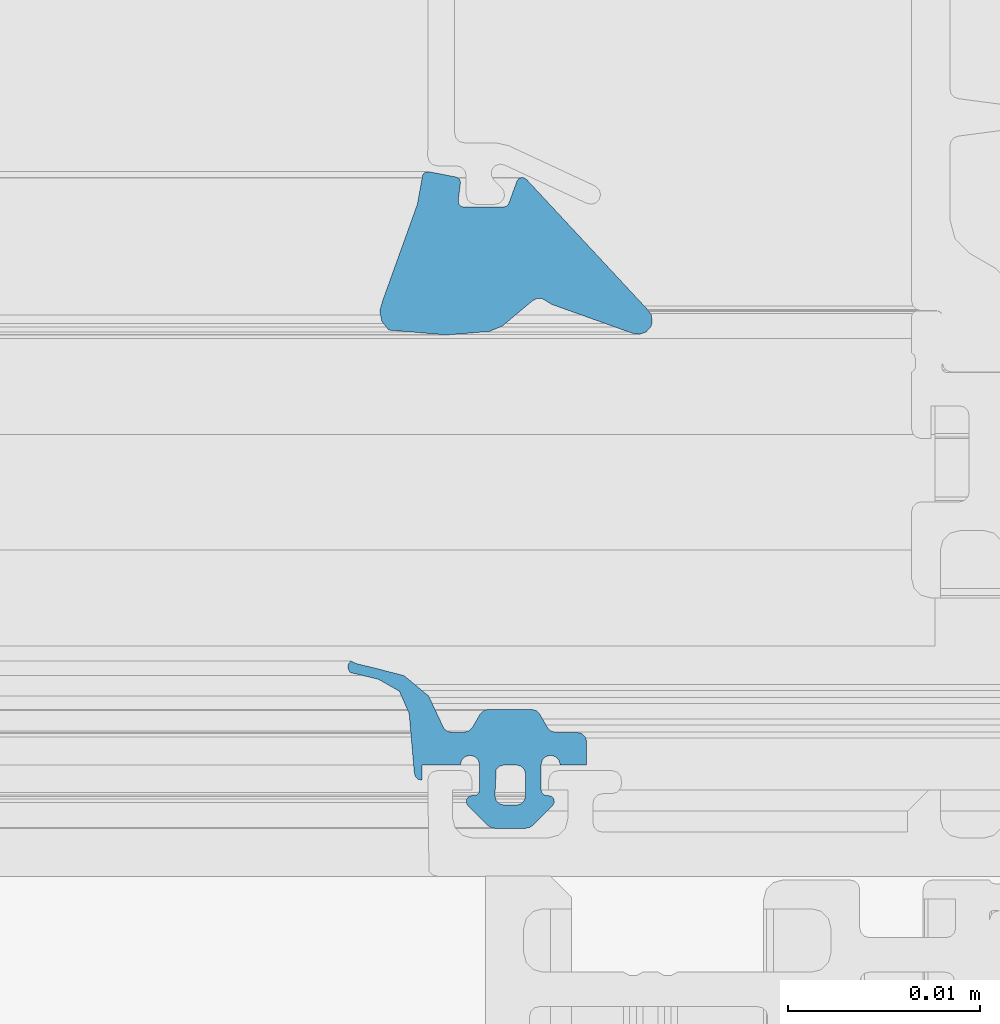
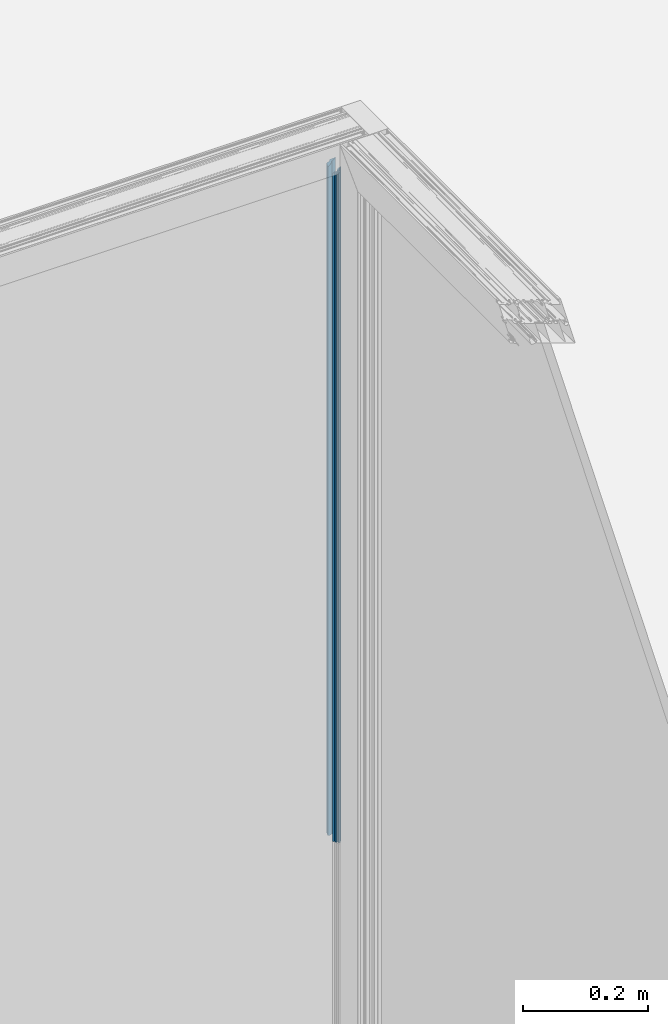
# One storey, part 29 of 69: 1 building element part, 2 elements without a shape of their own.
"""IFC2X3 building model written with IfcOpenShell, lengths in millimetres."""

from ifc_helpers import new_model, entity, si_unit, converted_unit, derived_unit, money_unit, direction, frame, origin_with_axes, place, context, subcontext, project, spatial, faceted_brep, material, type_object, element, aggregate, save


model = new_model("IFC2X3")

# Units and contexts
model_context = context("Model", 3, precision=0.01, world=origin_with_axes(), true_north=direction((0.0, 1.0)))
body_context = subcontext(model_context, "Body", "Model", "MODEL_VIEW")
ifc_project = project(units=[si_unit("LENGTHUNIT", "METRE", prefix="MILLI"), si_unit("AREAUNIT", "SQUARE_METRE"), si_unit("VOLUMEUNIT", "CUBIC_METRE"), converted_unit("PLANEANGLEUNIT", "DEGREE", entity("IfcPlaneAngleMeasure", 0.0174532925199), si_unit("PLANEANGLEUNIT", "RADIAN"), dimensions=[0, 0, 0, 0, 0, 0, 0]), si_unit("SOLIDANGLEUNIT", "STERADIAN"), money_unit("EUR"), converted_unit("TIMEUNIT", "Year", entity("IfcTimeMeasure", 31556926.0), si_unit("TIMEUNIT", "SECOND"), dimensions=[0, 0, 1, 0, 0, 0, 0]), si_unit("MASSUNIT", "GRAM", prefix="KILO"), si_unit("THERMODYNAMICTEMPERATUREUNIT", "DEGREE_CELSIUS"), si_unit("LUMINOUSINTENSITYUNIT", "LUMEN"), si_unit("ENERGYUNIT", "JOULE", prefix="MEGA"), derived_unit("THERMALCONDUCTANCEUNIT", [(si_unit("POWERUNIT", "WATT"), 1), (si_unit("LENGTHUNIT", "METRE"), -1), (si_unit("THERMODYNAMICTEMPERATUREUNIT", "KELVIN"), -1)]), derived_unit("SPECIFICHEATCAPACITYUNIT", [(si_unit("ENERGYUNIT", "JOULE"), 1), (si_unit("MASSUNIT", "GRAM", prefix="KILO"), -1), (si_unit("THERMODYNAMICTEMPERATUREUNIT", "KELVIN"), -1)]), derived_unit("MASSDENSITYUNIT", [(si_unit("MASSUNIT", "GRAM", prefix="KILO"), 1), (si_unit("VOLUMEUNIT", "CUBIC_METRE"), -1)])], contexts=[model_context])

# Site, building, storey
site_placement = place(None, origin_with_axes())
site = spatial("IfcSite", under=ifc_project, at=site_placement, Name="Puškini 31, Narva", CompositionType="ELEMENT")
building_placement = place(site_placement, origin_with_axes())
building = spatial("IfcBuilding", under=site, at=building_placement, Name="Narva Riigigümnaasium", CompositionType="ELEMENT")
storey_placement = place(building_placement, origin_with_axes())
storey = spatial("IfcBuildingStorey", under=building, at=storey_placement, Name="1.korrus 0.00", CompositionType="ELEMENT", Elevation=0.0)

# Curtain wall, member, building element part
curtain_wall_type = type_object("IfcCurtainWallType", Name="Curtain Wall Type", PredefinedType="NOTDEFINED")
curtain_wall_placement = place(storey_placement, frame((18229.9603698, 152620.000001, -0.397158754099), z_axis=(0.0, 0.0, 1.0), x_axis=(1.0, 0.0, 0.0)))
curtain_wall = element("IfcCurtainWall", 1, at=curtain_wall_placement, inside=storey, type_object=curtain_wall_type, Name="G-KLF-01-1")
member_type = type_object("IfcMemberType", Name="61 x 45", PredefinedType="MULLION")
member_placement = place(curtain_wall_placement, frame((4064.40686752, 0.0, 2400.00003439), z_axis=(0.0, 0.0, 1.0), x_axis=(1.0, 0.0, 0.0)))
member = element("IfcMember", 2, at=member_placement, type_object=member_type, Name="G-SKLF-14-raam", ObjectType="MULLION")
aggregate(curtain_wall, [member])
ifc_material = material(Name="Membraan - Veekindel")
building_element_part_placement = place(member_placement, origin_with_axes())
building_element_part = element("IfcBuildingElementPart", 3, at=building_element_part_placement, material=ifc_material, Name="Membraan - Veekindel", context=body_context, shape_type="Brep", body=[
    faceted_brep([(-61.0413385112, -34.3890442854, 0.0), (-59.5800222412, -34.73794757, 0.0), (-59.5800222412, -34.73794757, 1300.81706307), (-61.0413385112, -34.3890442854, 1299.3557468), (-61.1536677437, -34.1934467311, 0.0), (-61.1423164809, -33.9681748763, 0.0), (-61.0108941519, -33.784859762, 0.0), (-60.7381535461, -33.9217644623, 0.0), (-59.8409257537, -34.1343131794, 0.0), (-58.2346494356, -34.5489145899, 0.0), (-56.9567944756, -35.6067920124, 0.0), (-56.2495873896, -37.1074172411, 0.0), (-56.1542959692, -37.3107917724, 0.0), (-55.9795989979, -37.4519392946, 0.0), (-55.7607444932, -37.5023809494, 0.0), (-55.1093263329, -37.5023809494, 0.0), (-54.8593263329, -37.4353936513, 0.0), (-54.676313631, -37.2523809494, 0.0), (-54.2721684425, -36.5523809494, 0.0), (-54.0891557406, -36.3693682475, 0.0), (-53.8391557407, -36.3023809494, 0.0), (-51.602145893, -36.3023809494, 0.0), (-51.352145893, -36.3693682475, 0.0), (-51.1691331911, -36.5523809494, 0.0), (-50.7649880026, -37.2523809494, 0.0), (-50.5819753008, -37.4353936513, 0.0), (-50.3319753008, -37.5023809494, 0.0), (-49.2206527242, -37.5023809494, 0.0), (-48.9706527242, -37.5693682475, 0.0), (-48.7876400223, -37.7523809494, 0.0), (-48.7206527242, -38.0023809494, 0.0), (-48.7206527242, -39.1999494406, 0.0), (-50.10004, -39.1999494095, 0.0), (-50.1670287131, -38.9499497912, 0.0), (-50.3500424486, -38.7669381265, 0.0), (-50.6000428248, -38.699952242, 0.0), (-50.8500424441, -38.7669409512, 0.0), (-51.0330541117, -38.9499546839, 0.0), (-51.10004, -39.1999550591, 0.0), (-51.10004, -40.4999366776, 0.0), (-51.0598476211, -40.6499366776, 0.0), (-50.95004, -40.7597442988, 0.0), (-50.80004, -40.7999366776, 0.0), (-50.7000457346, -40.7999366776, 0.0), (-50.5334025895, -40.8504763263, 0.0), (-50.4229059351, -40.9850671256, 0.0), (-50.4057850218, -41.1583618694, 0.0), (-50.4878083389, -41.3119729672, 0.0), (-51.5281601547, -42.3533311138, 0.0), (-51.6904310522, -42.4618421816, 0.0), (-51.8818844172, -42.4999486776, 0.0), (-53.517932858, -42.4999486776, 0.0), (-53.7093558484, -42.4618547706, 0.0), (-53.8716106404, -42.3533776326, 0.0), (-54.9122350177, -41.3120206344, 0.0), (-54.9942836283, -41.1584047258, 0.0), (-54.9771753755, -40.9850924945, 0.0), (-54.866675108, -40.850483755, 0.0), (-54.7000173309, -40.7999366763, 0.0), (-54.6000210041, -40.7999366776, 0.0), (-54.4500210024, -40.7597443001, 0.0), (-54.3402133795, -40.6499366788, 0.0), (-54.300021, -40.4999366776, 0.0), (-54.300021, -39.1999606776, 0.0), (-54.3670082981, -38.9499606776, 0.0), (-54.5500210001, -38.7669479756, 0.0), (-54.8000210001, -38.6999606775, 0.0), (-55.0500210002, -38.7669479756, 0.0), (-55.2330337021, -38.9499606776, 0.0), (-55.3000210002, -39.1999606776, 0.0), (-57.3000022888, -39.1999494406, 0.0), (-57.3000022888, -39.9999846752, 0.0), (-57.5000161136, -39.9463912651, 0.0), (-57.6464370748, -39.7999717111, 0.0), (-57.7000324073, -39.5999584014, 0.0), (-57.9693613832, -36.5265882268, 0.0), (-58.4755028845, -35.3628499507, 0.0), (-53.5000340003, -40.7999553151, 0.0), (-53.4330491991, -41.0499459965, 0.0), (-53.2500433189, -41.2329518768, 0.0), (-53.0000526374, -41.299936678, 0.0), (-52.4000083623, -41.299936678, 0.0), (-52.150017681, -41.2329518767, 0.0), (-51.9670118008, -41.0499459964, 0.0), (-51.9000269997, -40.799955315, 0.0), (-51.9000269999, -39.6999268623, 0.0), (-51.9670129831, -39.4499317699, 0.0), (-52.1500220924, -39.2669226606, 0.0), (-52.4000171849, -39.1999366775, 0.0), (-53.0000438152, -39.1999366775, 0.0), (-53.2500389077, -39.2669226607, 0.0), (-53.433048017, -39.44993177, 0.0), (-58.4755028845, -35.3628499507, 1301.92158243), (-57.9693613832, -36.5265882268, 1302.42772393), (-57.7000324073, -39.5999584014, 1302.69705291), (-57.6464370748, -39.7999717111, 1302.75064824), (-57.5000161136, -39.9463912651, 1302.8970692), (-57.3000022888, -39.9999846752, 1303.09708303), (-57.3000022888, -39.1999494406, 1303.09708303), (-55.3000210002, -39.1999606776, 1305.09706431), (-55.2330337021, -38.9499606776, 1305.16405161), (-55.0500210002, -38.7669479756, 1305.34706431), (-54.8000210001, -38.6999606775, 1305.59706431), (-54.5500210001, -38.7669479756, 1305.84706431), (-54.3670082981, -38.9499606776, 1306.03007702), (-54.300021, -39.1999606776, 1306.09706431), (-54.300021, -40.4999366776, 1306.09706431), (-54.3402133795, -40.6499366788, 1306.05687193), (-54.4500210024, -40.7597443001, 1305.94706431), (-54.6000210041, -40.7999366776, 1305.79706431), (-54.7000173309, -40.7999366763, 1305.69706798), (-54.866675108, -40.850483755, 1305.53041021), (-54.9771753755, -40.9850924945, 1305.41990994), (-54.9942836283, -41.1584047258, 1305.40280169), (-54.9122350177, -41.3120206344, 1305.4848503), (-53.8716106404, -42.3533776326, 1306.52547467), (-53.7093558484, -42.4618547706, 1306.68772947), (-53.517932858, -42.4999486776, 1306.87915246), (-51.8818844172, -42.4999486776, 1308.5152009), (-51.6904310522, -42.4618421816, 1308.70665426), (-51.5281601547, -42.3533311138, 1308.86892516), (-50.4878083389, -41.3119729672, 1309.90927698), (-50.4057850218, -41.1583618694, 1309.99130029), (-50.4229059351, -40.9850671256, 1309.97417938), (-50.5334025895, -40.8504763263, 1309.86368272), (-50.7000457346, -40.7999366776, 1309.69703958), (-50.80004, -40.7999366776, 1309.59704531), (-50.95004, -40.7597442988, 1309.44704531), (-51.0598476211, -40.6499366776, 1309.33723769), (-51.10004, -40.4999366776, 1309.29704531), (-51.10004, -39.1999550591, 1309.29704531), (-51.0330541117, -38.9499546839, 1309.3640312), (-50.8500424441, -38.7669409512, 1309.54704287), (-50.6000428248, -38.699952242, 1309.79704249), (-50.3500424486, -38.7669381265, 1310.04704287), (-50.1670287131, -38.9499497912, 1310.2300566), (-50.10004, -39.1999494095, 1310.29704531), (-48.7206527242, -39.1999494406, 1311.67643259), (-48.7206527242, -38.0023809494, 1311.67643259), (-48.7876400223, -37.7523809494, 1311.60944529), (-48.9706527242, -37.5693682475, 1311.42643259), (-49.2206527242, -37.5023809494, 1311.17643259), (-50.3319753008, -37.5023809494, 1310.06511001), (-50.5819753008, -37.4353936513, 1309.81511001), (-50.7649880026, -37.2523809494, 1309.63209731), (-51.1691331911, -36.5523809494, 1309.22795212), (-51.352145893, -36.3693682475, 1309.04493942), (-51.602145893, -36.3023809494, 1308.79493942), (-53.8391557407, -36.3023809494, 1306.55792957), (-54.0891557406, -36.3693682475, 1306.30792957), (-54.2721684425, -36.5523809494, 1306.12491687), (-54.676313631, -37.2523809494, 1305.72077168), (-54.8593263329, -37.4353936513, 1305.53775898), (-55.1093263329, -37.5023809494, 1305.28775898), (-55.7607444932, -37.5023809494, 1304.63634082), (-55.9795989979, -37.4519392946, 1304.41748632), (-56.1542959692, -37.3107917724, 1304.24278935), (-56.2495873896, -37.1074172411, 1304.14749792), (-56.9567944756, -35.6067920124, 1303.44029084), (-58.2346494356, -34.5489145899, 1302.16243588), (-59.8409257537, -34.1343131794, 1300.55615956), (-60.7381535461, -33.9217644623, 1299.65893177), (-61.0108941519, -33.784859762, 1299.38619116), (-61.1423164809, -33.9681748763, 1299.25476883), (-61.1536677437, -34.1934467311, 1299.24341757), (-53.5000340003, -40.7999553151, 1306.89705131), (-53.433048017, -39.44993177, 1306.9640373), (-53.2500389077, -39.2669226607, 1307.14704641), (-53.0000438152, -39.1999366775, 1307.3970415), (-52.4000171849, -39.1999366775, 1307.99706813), (-52.1500220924, -39.2669226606, 1308.24706322), (-51.9670129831, -39.4499317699, 1308.43007233), (-51.9000269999, -39.6999268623, 1308.49705831), (-51.9000269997, -40.799955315, 1308.49705831), (-51.9670118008, -41.0499459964, 1308.43007351), (-52.150017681, -41.2329518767, 1308.24706763), (-52.4000083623, -41.299936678, 1307.99707695), (-53.0000526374, -41.299936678, 1307.39703268), (-53.2500433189, -41.2329518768, 1307.147042), (-53.4330491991, -41.0499459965, 1306.96403612)], [[[0, 1, 2, 3]], [[0, 4, 5, 6, 7, 8, 9, 10, 11, 12, 13, 14, 15, 16, 17, 18, 19, 20, 21, 22, 23, 24, 25, 26, 27, 28, 29, 30, 31, 32, 33, 34, 35, 36, 37, 38, 39, 40, 41, 42, 43, 44, 45, 46, 47, 48, 49, 50, 51, 52, 53, 54, 55, 56, 57, 58, 59, 60, 61, 62, 63, 64, 65, 66, 67, 68, 69, 70, 71, 72, 73, 74, 75, 76, 1], [77, 78, 79, 80, 81, 82, 83, 84, 85, 86, 87, 88, 89, 90, 91]], [[1, 76, 92, 2]], [[3, 2, 92, 93, 94, 95, 96, 97, 98, 99, 100, 101, 102, 103, 104, 105, 106, 107, 108, 109, 110, 111, 112, 113, 114, 115, 116, 117, 118, 119, 120, 121, 122, 123, 124, 125, 126, 127, 128, 129, 130, 131, 132, 133, 134, 135, 136, 137, 138, 139, 140, 141, 142, 143, 144, 145, 146, 147, 148, 149, 150, 151, 152, 153, 154, 155, 156, 157, 158, 159, 160, 161, 162, 163, 164], [165, 166, 167, 168, 169, 170, 171, 172, 173, 174, 175, 176, 177, 178, 179]], [[4, 0, 3, 164]], [[5, 4, 164, 163]], [[6, 5, 163, 162]], [[7, 6, 162, 161]], [[8, 7, 161, 160]], [[9, 8, 160, 159]], [[10, 9, 159, 158]], [[11, 10, 158, 157]], [[12, 11, 157, 156]], [[13, 12, 156, 155]], [[14, 13, 155, 154]], [[15, 14, 154, 153]], [[16, 15, 153, 152]], [[17, 16, 152, 151]], [[18, 17, 151, 150]], [[19, 18, 150, 149]], [[20, 19, 149, 148]], [[21, 20, 148, 147]], [[22, 21, 147, 146]], [[23, 22, 146, 145]], [[24, 23, 145, 144]], [[25, 24, 144, 143]], [[26, 25, 143, 142]], [[27, 26, 142, 141]], [[28, 27, 141, 140]], [[29, 28, 140, 139]], [[30, 29, 139, 138]], [[31, 30, 138, 137]], [[32, 31, 137, 136]], [[33, 32, 136, 135]], [[34, 33, 135, 134]], [[35, 34, 134, 133]], [[36, 35, 133, 132]], [[37, 36, 132, 131]], [[38, 37, 131, 130]], [[39, 38, 130, 129]], [[40, 39, 129, 128]], [[41, 40, 128, 127]], [[42, 41, 127, 126]], [[43, 42, 126, 125]], [[44, 43, 125, 124]], [[45, 44, 124, 123]], [[46, 45, 123, 122]], [[47, 46, 122, 121]], [[48, 47, 121, 120]], [[49, 48, 120, 119]], [[50, 49, 119, 118]], [[51, 50, 118, 117]], [[52, 51, 117, 116]], [[53, 52, 116, 115]], [[54, 53, 115, 114]], [[55, 54, 114, 113]], [[56, 55, 113, 112]], [[57, 56, 112, 111]], [[58, 57, 111, 110]], [[59, 58, 110, 109]], [[60, 59, 109, 108]], [[61, 60, 108, 107]], [[62, 61, 107, 106]], [[63, 62, 106, 105]], [[64, 63, 105, 104]], [[65, 64, 104, 103]], [[66, 65, 103, 102]], [[67, 66, 102, 101]], [[68, 67, 101, 100]], [[69, 68, 100, 99]], [[70, 69, 99, 98]], [[71, 70, 98, 97]], [[72, 71, 97, 96]], [[73, 72, 96, 95]], [[74, 73, 95, 94]], [[75, 74, 94, 93]], [[76, 75, 93, 92]], [[78, 77, 165, 179]], [[79, 78, 179, 178]], [[80, 79, 178, 177]], [[81, 80, 177, 176]], [[82, 81, 176, 175]], [[83, 82, 175, 174]], [[84, 83, 174, 173]], [[85, 84, 173, 172]], [[86, 85, 172, 171]], [[87, 86, 171, 170]], [[88, 87, 170, 169]], [[89, 88, 169, 168]], [[90, 89, 168, 167]], [[91, 90, 167, 166]], [[77, 91, 166, 165]]]),
    faceted_brep([(-59.0307115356, -16.554149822, 0.0), (-55.9926715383, -16.8063498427, 0.0), (-55.9926715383, -16.8063498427, 1304.40441378), (-59.0307115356, -16.554149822, 1301.36637378), (-59.3884652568, -16.1092618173, 0.0), (-59.5001582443, -15.5494067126, 0.0), (-59.3405112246, -15.0012955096, 0.0), (-57.5418652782, -10.0035930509, 0.0), (-57.2632233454, -8.46932121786, 0.0), (-57.1824204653, -8.36745448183, 0.0), (-57.0661058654, -8.3093438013, 0.0), (-56.9361285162, -8.30590490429, 0.0), (-55.5361285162, -8.57803733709, 0.0), (-55.4168250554, -8.6299735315, 0.0), (-55.3307332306, -8.7275382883, 0.0), (-55.2940485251, -8.85237785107, 0.0), (-55.4099827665, -9.81272116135, 0.0), (-55.3838261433, -9.97808311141, 0.0), (-55.2731258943, -10.1036784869, 0.0), (-55.1123574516, -10.1503930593, 0.0), (-53.0580290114, -10.1503930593, 0.0), (-52.8859560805, -10.0961386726, 0.0), (-52.7761212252, -9.95299910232, 0.0), (-52.3556584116, -8.79778701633, 0.0), (-52.2574645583, -8.66326410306, 0.0), (-52.1026310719, -8.60190419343, 0.0), (-51.938943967, -8.6326446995, 0.0), (-51.8169217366, -8.74599822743, 0.0), (-45.6142070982, -15.4144760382, 0.0), (-45.3418968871, -15.7688623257, 0.0), (-45.3195226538, -16.2152275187, 0.0), (-45.3889077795, -16.3899097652, 0.0), (-45.6241929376, -16.6482027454, 0.0), (-45.950966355, -16.7718696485, 0.0), (-46.298307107, -16.7340705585, 0.0), (-50.5536994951, -15.2121179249, 0.0), (-50.8437237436, -15.0307134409, 0.0), (-51.0558924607, -14.9074036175, 0.0), (-51.3011765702, -14.8998814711, 0.0), (-51.5205025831, -15.0099586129, 0.0), (-53.1225200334, -16.3483062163, 0.0), (-53.7899070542, -16.6230039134, 0.0), (-53.7899070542, -16.6230039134, 1306.60717826), (-53.1225200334, -16.3483062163, 1307.27456528), (-51.5205025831, -15.0099586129, 1308.87658273), (-51.3011765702, -14.8998814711, 1309.09590874), (-51.0558924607, -14.9074036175, 1309.34119285), (-50.8437237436, -15.0307134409, 1309.55336157), (-50.5536994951, -15.2121179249, 1309.84338582), (-46.298307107, -16.7340705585, 1314.09877821), (-45.950966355, -16.7718696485, 1314.44611896), (-45.6241929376, -16.6482027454, 1314.77289238), (-45.3889077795, -16.3899097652, 1315.00817753), (-45.3195226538, -16.2152275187, 1315.07756266), (-45.3418968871, -15.7688623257, 1315.05518843), (-45.6142070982, -15.4144760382, 1314.78287822), (-51.8169217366, -8.74599822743, 1308.58016358), (-51.938943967, -8.6326446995, 1308.45814135), (-52.1026310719, -8.60190419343, 1308.29445424), (-52.2574645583, -8.66326410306, 1308.13962076), (-52.3556584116, -8.79778701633, 1308.0414269), (-52.7761212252, -9.95299910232, 1307.62096409), (-52.8859560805, -10.0961386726, 1307.51112923), (-53.0580290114, -10.1503930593, 1307.3390563), (-55.1123574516, -10.1503930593, 1305.28472786), (-55.2731258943, -10.1036784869, 1305.12395942), (-55.3838261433, -9.97808311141, 1305.01325917), (-55.4099827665, -9.81272116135, 1304.98710255), (-55.2940485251, -8.85237785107, 1305.10303679), (-55.3307332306, -8.7275382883, 1305.06635208), (-55.4168250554, -8.6299735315, 1304.98026026), (-55.5361285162, -8.57803733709, 1304.8609568), (-56.9361285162, -8.30590490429, 1303.4609568), (-57.0661058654, -8.3093438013, 1303.33097945), (-57.1824204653, -8.36745448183, 1303.21466485), (-57.2632233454, -8.46932121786, 1303.13386197), (-57.5418652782, -10.0035930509, 1302.85522004), (-59.3405112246, -15.0012955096, 1301.05657409), (-59.5001582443, -15.5494067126, 1300.89692707), (-59.3884652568, -16.1092618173, 1301.00862006)], [[[0, 1, 2, 3]], [[0, 4, 5, 6, 7, 8, 9, 10, 11, 12, 13, 14, 15, 16, 17, 18, 19, 20, 21, 22, 23, 24, 25, 26, 27, 28, 29, 30, 31, 32, 33, 34, 35, 36, 37, 38, 39, 40, 41, 1]], [[1, 41, 42, 2]], [[3, 2, 42, 43, 44, 45, 46, 47, 48, 49, 50, 51, 52, 53, 54, 55, 56, 57, 58, 59, 60, 61, 62, 63, 64, 65, 66, 67, 68, 69, 70, 71, 72, 73, 74, 75, 76, 77, 78, 79]], [[4, 0, 3, 79]], [[5, 4, 79, 78]], [[6, 5, 78, 77]], [[7, 6, 77, 76]], [[8, 7, 76, 75]], [[9, 8, 75, 74]], [[10, 9, 74, 73]], [[11, 10, 73, 72]], [[12, 11, 72, 71]], [[13, 12, 71, 70]], [[14, 13, 70, 69]], [[15, 14, 69, 68]], [[16, 15, 68, 67]], [[17, 16, 67, 66]], [[18, 17, 66, 65]], [[19, 18, 65, 64]], [[20, 19, 64, 63]], [[21, 20, 63, 62]], [[22, 21, 62, 61]], [[23, 22, 61, 60]], [[24, 23, 60, 59]], [[25, 24, 59, 58]], [[26, 25, 58, 57]], [[27, 26, 57, 56]], [[28, 27, 56, 55]], [[29, 28, 55, 54]], [[30, 29, 54, 53]], [[31, 30, 53, 52]], [[32, 31, 52, 51]], [[33, 32, 51, 50]], [[34, 33, 50, 49]], [[35, 34, 49, 48]], [[36, 35, 48, 47]], [[37, 36, 47, 46]], [[38, 37, 46, 45]], [[39, 38, 45, 44]], [[40, 39, 44, 43]], [[41, 40, 43, 42]]]),
])
aggregate(member, [building_element_part])

save(model, "model.ifc")
